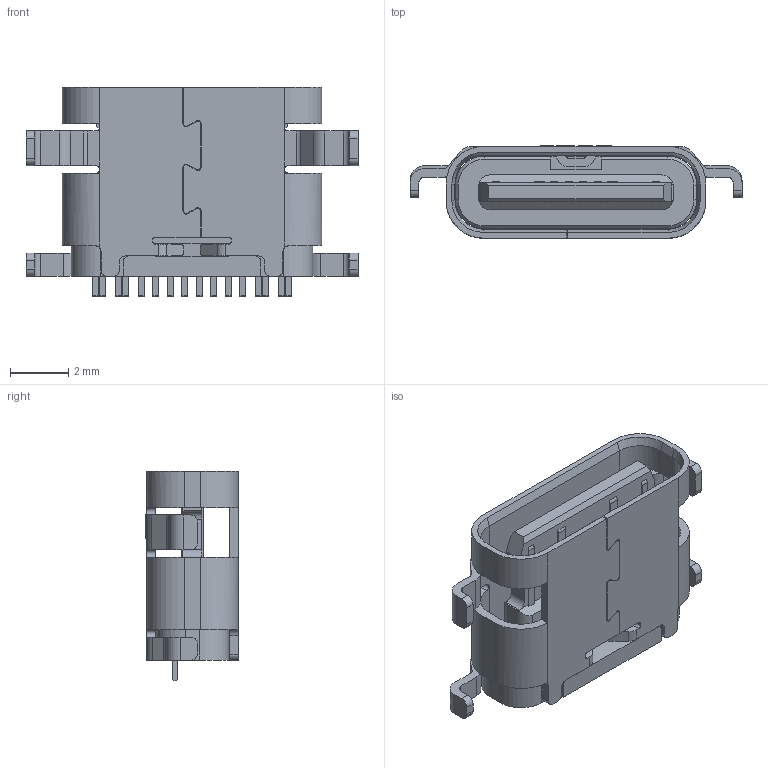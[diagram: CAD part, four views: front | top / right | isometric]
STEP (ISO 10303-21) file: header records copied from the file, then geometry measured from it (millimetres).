
FILE_DESCRIPTION (( 'STEP AP214' ), '1' );
FILE_NAME ('U5090-16PN2.1C6.5L.STEP', '2026-09-08T06:29:57', ( '' ), ( '' ), 'SwSTEP 2.0', 'SolidWorks 2024', '' );
FILE_SCHEMA (( 'AUTOMOTIVE_DESIGN' ));
Length unit declared in the file: millimetre
Products named in the file (3): 16PIN-CH0825-201124_ASM_10_ASM; MO-2_200813_6; U5090-16PN2.1C6.5L
Assembly tree (2 placements, depth 3):
  U5090-16PN2.1C6.5L
    16PIN-CH0825-201124_ASM_10_ASM
      MO-2_200813_6
Bounding box: 11.42 x 3.19 x 7.2 mm (x, y, z)
Volume: 98.4 mm3; surface area: 431.1 mm2
Topology: 1 solids, 1 shells, 563 faces, 1609 edges, 1061 vertices
Faces by surface type: plane 377, cylinder 150, bspline 27, cone 9
Entity records: 19918 total; most frequent: CARTESIAN_POINT 5092, ORIENTED_EDGE 3218, DIRECTION 2898, EDGE_CURVE 1609, LINE 1218, VECTOR 1218, VERTEX_POINT 1061, AXIS2_PLACEMENT_3D 840
